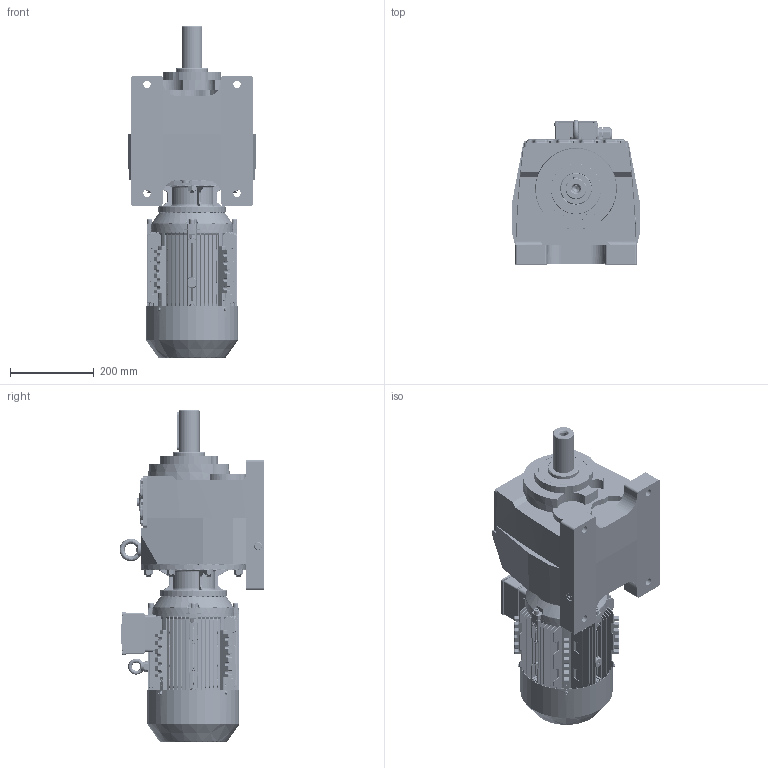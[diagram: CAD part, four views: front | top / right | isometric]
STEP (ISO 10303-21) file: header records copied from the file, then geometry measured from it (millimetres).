
FILE_DESCRIPTION (( 'STEP AP203' ), '1' );
FILE_NAME ('MV_473_0_MX-112.STEP', '2018-11-27T12:14:59', ( '' ), ( '' ), 'SwSTEP 2.0', 'SolidWorks 2012', '' );
FILE_SCHEMA (( 'CONFIG_CONTROL_DESIGN' ));
Products named in the file (26): MV_473_0_MX-112; MX3-112_B14; DMX-IE3 112  cable glands_3; DMX-IE3 112 Flange; hexagon flange head tapping screws gb_GB_SQUARE_AND_HEXAGON_TYPE137 ST4.8X9.5 C-N_3; DMX-IE3 112terminal box cover_3; eyebolts gb_GB_FASTENER_SCREWS_FRS M8-N_3; cross recessed pan head screws gb_GB_CROSS_SCREWS_TYPE1 M5X12-12  H type-N_3; DMX-IE3 112terminal box base_3; plain parallel keys_GB_CONNECTING_PIECE_KEYS_CSK 8X50_3; DMX-IE3 112   fan cover_3; hexagon socket head cap screws gb_GB_FASTENER_SCREWS_HSHCS M8X40-N_3; hexagon nuts grade c gb_GB_FASTENER_NUT_SNC1 M8-N_3; DMX-IE3 112 fan_3; spring lock washers--normal type gb_GB_FASTENER_WASHER_SW 8_3; circlips for shaft--type a large gb_GB_CONNECTING_PIECE_RING_RRA 28_3; DMX-IE3 112M4  oil seal_3; deep groove ball bearings gb_Rolling bearings 6206 GB 276-94_3; DMX-IE3 oil seal_3; deep groove ball bearings gb_Rolling bearings 6306 GB 276-94_3; DMX-IE3 112M4 casing_3; DMX-IE3 112 shaft_3; DMX-IE3 112 shield_3; M473_Varsayìlan; ML4A_Varsayìlan; 43100B14_Varsayìlan
Assembly tree (54 placements, depth 3):
  MV_473_0_MX-112
    M473_Varsayìlan
    43100B14_Varsayìlan
    ML4A_Varsayìlan
    MX3-112_B14
      DMX-IE3 112M4 casing_3
      DMX-IE3 112 shaft_3
      DMX-IE3 112 shield_3
      deep groove ball bearings gb_Rolling bearings 6306 GB 276-94_3
      deep groove ball bearings gb_Rolling bearings 6206 GB 276-94_3
      DMX-IE3 112M4  oil seal_3
      DMX-IE3 oil seal_3
      DMX-IE3 112 fan_3
      circlips for shaft--type a large gb_GB_CONNECTING_PIECE_RING_RRA 28_3
      spring lock washers--normal type gb_GB_FASTENER_WASHER_SW 8_3  x8
      hexagon nuts grade c gb_GB_FASTENER_NUT_SNC1 M8-N_3  x8
      hexagon socket head cap screws gb_GB_FASTENER_SCREWS_HSHCS M8X40-N_3  x8
      DMX-IE3 112   fan cover_3
      plain parallel keys_GB_CONNECTING_PIECE_KEYS_CSK 8X50_3
      DMX-IE3 112terminal box base_3
      DMX-IE3 112terminal box cover_3
      cross recessed pan head screws gb_GB_CROSS_SCREWS_TYPE1 M5X12-12  H type-N_3  x4
      eyebolts gb_GB_FASTENER_SCREWS_FRS M8-N_3
      hexagon flange head tapping screws gb_GB_SQUARE_AND_HEXAGON_TYPE137 ST4.8X9.5 C-N_3  x5
      DMX-IE3 112  cable glands_3  x2
      DMX-IE3 112 Flange
Bounding box: 306 x 345.92 x 792.25 mm (x, y, z)
Volume: 21100422.5 mm3; surface area: 2040158.5 mm2
Topology: 53 solids, 59 shells, 7434 faces, 19145 edges, 11694 vertices
Faces by surface type: plane 2597, cylinder 2038, bspline 1758, cone 820, torus 111, sphere 110
Entity records: 288460 total; most frequent: CARTESIAN_POINT 131440, ORIENTED_EDGE 34840, DIRECTION 28613, EDGE_CURVE 17423, VERTEX_POINT 10741, AXIS2_PLACEMENT_3D 10456, VECTOR 7701, LINE 7701
